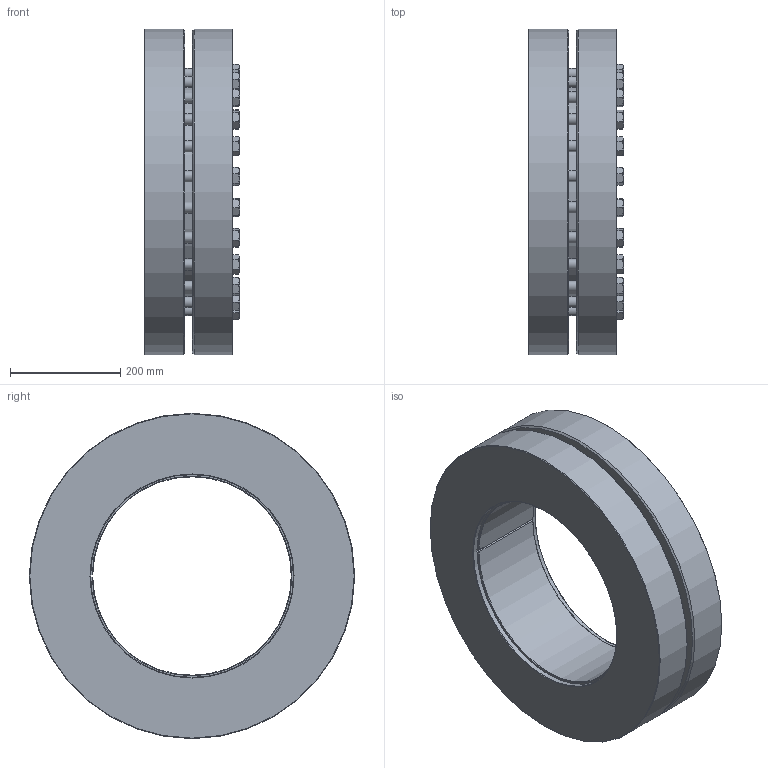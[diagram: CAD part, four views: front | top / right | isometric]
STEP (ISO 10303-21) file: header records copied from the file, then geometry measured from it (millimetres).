
FILE_DESCRIPTION( ( 'Unknown' ), '1' );
FILE_NAME( 'C:/Dokumente und Einstellungen/Sven/Desktop/KBS19 GF/KBS19 - 360 x 590.stp', 'Unknown', ( 'Unknown' ), ( 'Unknown' ), 'XStep 1.0', 'Unknown', ' ' );
FILE_SCHEMA( ( 'automotive_design' ) );
Length unit declared in the file: millimetre
Products named in the file (2): Assem1; ENG-001330
Bounding box: 172.5 x 590 x 590 mm (x, y, z)
Volume: 51113755.6 mm3; surface area: 2297716.2 mm2
Topology: 2 solids, 2 shells, 570 faces, 1476 edges, 1012 vertices
Faces by surface type: plane 400, cylinder 106, cone 56, torus 8
Full cylindrical faces by diameter (mm): 20 x48, 28.19 x48, 368 x2, 393.7 x2, 590 x4
Entity records: 15341 total; most frequent: CARTESIAN_POINT 3061, ORIENTED_EDGE 1168, DIRECTION 1150, PRESENTATION_STYLE_ASSIGNMENT 1101, COLOUR_RGB 1101, STYLED_ITEM 837, CURVE_STYLE 816, DRAUGHTING_PRE_DEFINED_CURVE_FONT 816
